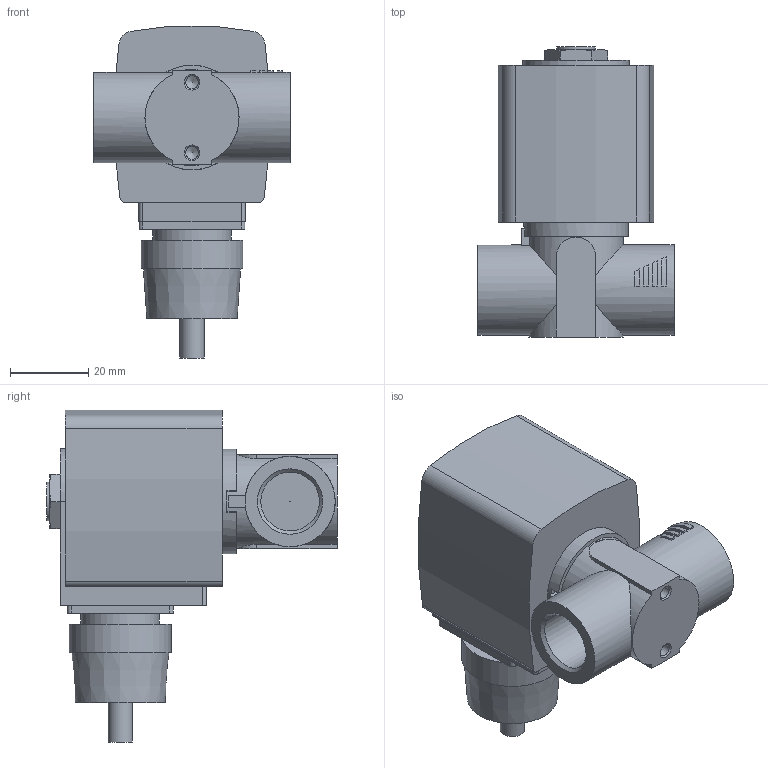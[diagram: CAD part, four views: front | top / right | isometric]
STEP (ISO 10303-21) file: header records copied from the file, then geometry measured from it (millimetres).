
FILE_DESCRIPTION(/* description */ ('STEP AP214'),/* implementation_level */ '2;1');
FILE_NAME(/* name */ '6240-364117-2_2-way_solenoid_valve__pilot-controlled',/* time_stamp */ '2024-05-10T10:33:15+02:00',/* author */ ('License CC BY-ND 4.0'),/* organization */ ('CADENAS'),/* preprocessor_version */ 'ST-DEVELOPER v19.3',/* originating_system */ 'PARTsolutions',/* authorisation */ ' ');
FILE_SCHEMA (('AUTOMOTIVE_DESIGN {1 0 10303 214 3 1 1}'));
Length unit declared in the file: millimetre
Products named in the file (3): 6240-364117-2/2-way solenoid valve, pilot-controlled; 6240-Gehaeuse-2/2-Wege-Magnetventil, vorgesteuert StandardG3/86MS; AC10ex-6ATEXKabelPlan-Coil
Assembly tree (2 placements, depth 2):
  6240-364117-2/2-way solenoid valve, pilot-controlled
    6240-Gehaeuse-2/2-Wege-Magnetventil, vorgesteuert StandardG3/86MS
    AC10ex-6ATEXKabelPlan-Coil
Bounding box: 50 x 74 x 84.63 mm (x, y, z)
Volume: 109051.1 mm3; surface area: 20584.2 mm2
Topology: 2 solids, 2 shells, 115 faces, 279 edges, 182 vertices
Faces by surface type: plane 64, cylinder 38, cone 13
Full cylindrical faces by diameter (mm): 0.2 x1, 3.242 x2, 6.2 x1, 9.74 x1, 14.95 x2, 20 x1, 23 x2, 24 x1, 24.5 x1, 26 x1, 26.65 x1
Entity records: 4132 total; most frequent: CARTESIAN_POINT 640, DIRECTION 567, ORIENTED_EDGE 498, EDGE_CURVE 249, AXIS2_PLACEMENT_3D 221, VERTEX_POINT 175, FACE_BOUND 154, EDGE_LOOP 152
